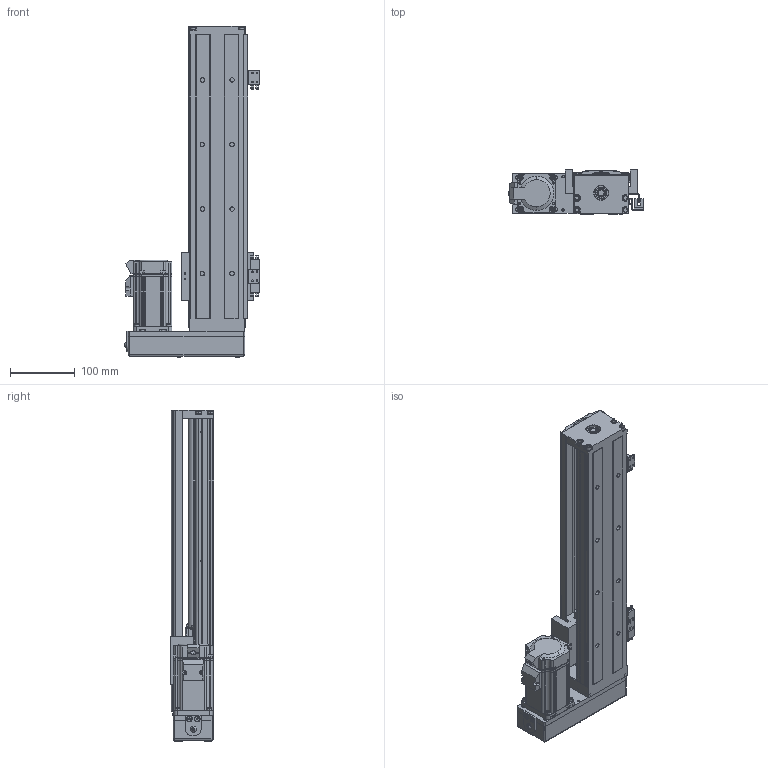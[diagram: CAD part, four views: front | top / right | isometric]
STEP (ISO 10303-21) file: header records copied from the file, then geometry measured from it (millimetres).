
FILE_DESCRIPTION (( 'STEP AP214' ), '1' );
FILE_NAME ('SFKK86-440A1-HL0C.STEP', '2023-02-17T07:01:40', ( '微软用户' ), ( '微软中国' ), 'SwSTEP 2.0', 'SolidWorks 2018', '' );
FILE_SCHEMA (( 'AUTOMOTIVE_DESIGN' ));
Length unit declared in the file: millimetre
Products named in the file (12): SFKK86-440A1-HL0C; 带盖挡光片：KK-86-S2-D1; SFKK86-H0-侂狟400W耜蚾; SX674嫖萇羲壽; SFKK86-H0_KKR86-ZT-P-440; SFKK86-A1-C; 开关固定座：KK-674S2-F; SFKK86-CU_440; 极限轨道与开关固定座组合_440; hexagon socket countersunk head screws gb_GB_FASTENER_SCREWS_HSCHS M3X8-N; SFKK86-LR 憤癹寢耋_440; hexagon socket countersunk head screws gb_GB_FASTENER_SCREWS_HSCHS M4X10-N
Assembly tree (18 placements, depth 3):
  SFKK86-440A1-HL0C
    SFKK86-H0_KKR86-ZT-P-440
    SFKK86-A1-C
    hexagon socket countersunk head screws gb_GB_FASTENER_SCREWS_HSCHS M3X8-N  x2
    SFKK86-CU_440
    hexagon socket countersunk head screws gb_GB_FASTENER_SCREWS_HSCHS M4X10-N  x4
    SFKK86-H0-侂狟400W耜蚾
    极限轨道与开关固定座组合_440
      SFKK86-LR 憤癹寢耋_440
      开关固定座：KK-674S2-F  x2
    SX674嫖萇羲壽  x3
    带盖挡光片：KK-86-S2-D1
Bounding box: 208.5 x 68 x 513.2 mm (x, y, z)
Volume: 1319451.6 mm3; surface area: 566997.5 mm2
Topology: 38 solids, 87 shells, 3641 faces, 9694 edges, 6207 vertices
Faces by surface type: plane 1625, cylinder 1459, cone 321, torus 105, bspline 98, sphere 33
Entity records: 135785 total; most frequent: CARTESIAN_POINT 28306, DIRECTION 18263, ORIENTED_EDGE 17480, EDGE_CURVE 9023, AXIS2_PLACEMENT_3D 6570, VERTEX_POINT 5881, VECTOR 5123, LINE 5123
